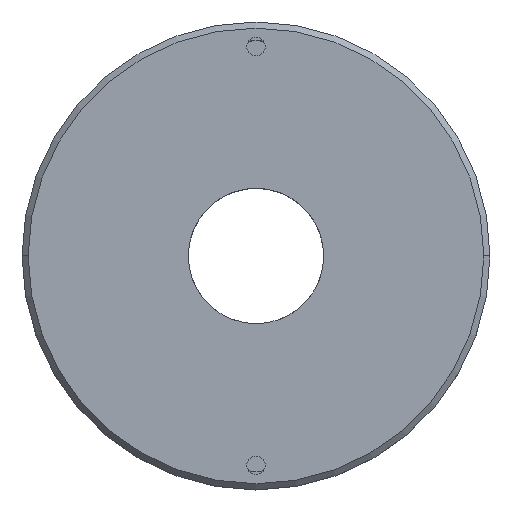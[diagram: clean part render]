
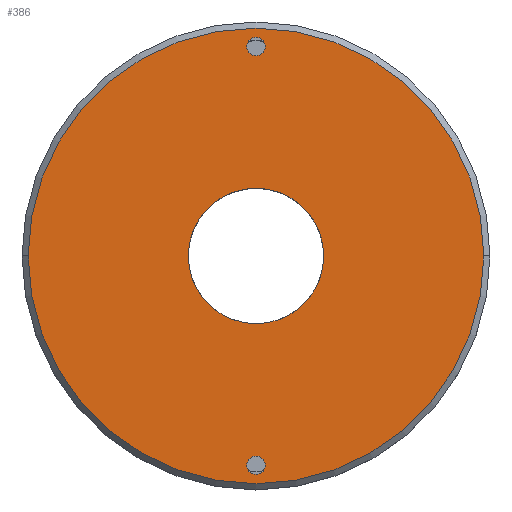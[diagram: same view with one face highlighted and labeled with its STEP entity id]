
A CAD part, top view. The second image highlights one B-rep face of the part: STEP entity #386.
In plain terms, the highlighted planar face has unit normal (0, 0, 1).
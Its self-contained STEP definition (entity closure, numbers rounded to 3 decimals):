
#2 = CARTESIAN_POINT ( 'NONE',  ( 1.676, 0.437, 12. ) ) ;
#4 = DIRECTION ( 'NONE',  ( -1., 0., 0. ) ) ;
#7 = DIRECTION ( 'NONE',  ( 0., 0., 1. ) ) ;
#58 = CARTESIAN_POINT ( 'NONE',  ( 2.426, 17.437, 12. ) ) ;
#59 = CIRCLE ( 'NONE', #262, 5.5 ) ;
#85 = AXIS2_PLACEMENT_3D ( 'NONE', #528, #1031, #4 ) ;
#94 = PLANE ( 'NONE',  #438 ) ;
#98 = CIRCLE ( 'NONE', #1089, 0.75 ) ;
#110 = DIRECTION ( 'NONE',  ( 1., 0., 0. ) ) ;
#134 = CARTESIAN_POINT ( 'NONE',  ( 20.176, 0.437, 12. ) ) ;
#168 = CARTESIAN_POINT ( 'NONE',  ( 1.676, 17.437, 12. ) ) ;
#174 = FACE_BOUND ( 'NONE', #190, .T. ) ;
#175 = CARTESIAN_POINT ( 'NONE',  ( 1.676, 0.437, 12. ) ) ;
#190 = EDGE_LOOP ( 'NONE', ( #924, #1238 ) ) ;
#197 = DIRECTION ( 'NONE',  ( 1., 0., 0. ) ) ;
#218 = VERTEX_POINT ( 'NONE', #1134 ) ;
#221 = VERTEX_POINT ( 'NONE', #222 ) ;
#222 = CARTESIAN_POINT ( 'NONE',  ( 7.176, 0.437, 12. ) ) ;
#225 = EDGE_CURVE ( 'NONE', #221, #300, #1013, .T. ) ;
#251 = DIRECTION ( 'NONE',  ( 0., 0., 1. ) ) ;
#262 = AXIS2_PLACEMENT_3D ( 'NONE', #175, #902, #283 ) ;
#266 = ORIENTED_EDGE ( 'NONE', *, *, #360, .F. ) ;
#274 = EDGE_CURVE ( 'NONE', #772, #218, #667, .T. ) ;
#275 = CARTESIAN_POINT ( 'NONE',  ( -16.824, 0.437, 12. ) ) ;
#278 = DIRECTION ( 'NONE',  ( 1., 0., 0. ) ) ;
#283 = DIRECTION ( 'NONE',  ( 1., 0., 0. ) ) ;
#300 = VERTEX_POINT ( 'NONE', #937 ) ;
#326 = CIRCLE ( 'NONE', #925, 18.5 ) ;
#339 = CARTESIAN_POINT ( 'NONE',  ( 1.676, 0.437, 12. ) ) ;
#340 = ORIENTED_EDGE ( 'NONE', *, *, #274, .F. ) ;
#360 = EDGE_CURVE ( 'NONE', #218, #772, #1281, .T. ) ;
#371 = ORIENTED_EDGE ( 'NONE', *, *, #996, .F. ) ;
#386 = ADVANCED_FACE ( 'NONE', ( #458, #1254, #991, #174 ), #94, .T. ) ;
#398 = EDGE_LOOP ( 'NONE', ( #340, #266 ) ) ;
#413 = DIRECTION ( 'NONE',  ( 0., 0., 1. ) ) ;
#438 = AXIS2_PLACEMENT_3D ( 'NONE', #513, #413, #197 ) ;
#458 = FACE_OUTER_BOUND ( 'NONE', #808, .T. ) ;
#466 = ORIENTED_EDGE ( 'NONE', *, *, #936, .F. ) ;
#513 = CARTESIAN_POINT ( 'NONE',  ( 1.676, 0.437, 12. ) ) ;
#521 = EDGE_CURVE ( 'NONE', #985, #619, #326, .T. ) ;
#528 = CARTESIAN_POINT ( 'NONE',  ( 1.676, -16.563, 12. ) ) ;
#619 = VERTEX_POINT ( 'NONE', #134 ) ;
#634 = CARTESIAN_POINT ( 'NONE',  ( 1.676, 17.437, 12. ) ) ;
#660 = ORIENTED_EDGE ( 'NONE', *, *, #1112, .T. ) ;
#666 = AXIS2_PLACEMENT_3D ( 'NONE', #2, #728, #110 ) ;
#667 = CIRCLE ( 'NONE', #1143, 0.75 ) ;
#685 = CARTESIAN_POINT ( 'NONE',  ( 0.926, 17.437, 12. ) ) ;
#728 = DIRECTION ( 'NONE',  ( 0., 0., 1. ) ) ;
#734 = DIRECTION ( 'NONE',  ( 1., 0., 0. ) ) ;
#752 = CARTESIAN_POINT ( 'NONE',  ( 1.676, -16.563, 12. ) ) ;
#772 = VERTEX_POINT ( 'NONE', #913 ) ;
#808 = EDGE_LOOP ( 'NONE', ( #930, #660 ) ) ;
#818 = DIRECTION ( 'NONE',  ( 0., 0., 1. ) ) ;
#825 = AXIS2_PLACEMENT_3D ( 'NONE', #634, #7, #734 ) ;
#849 = DIRECTION ( 'NONE',  ( 0., 0., 1. ) ) ;
#856 = DIRECTION ( 'NONE',  ( -1., 0., 0. ) ) ;
#862 = EDGE_LOOP ( 'NONE', ( #371, #466 ) ) ;
#894 = DIRECTION ( 'NONE',  ( 0., 0., 1. ) ) ;
#902 = DIRECTION ( 'NONE',  ( 0., 0., 1. ) ) ;
#913 = CARTESIAN_POINT ( 'NONE',  ( 2.426, -16.563, 12. ) ) ;
#919 = CARTESIAN_POINT ( 'NONE',  ( 1.676, 0.437, 12. ) ) ;
#924 = ORIENTED_EDGE ( 'NONE', *, *, #225, .F. ) ;
#925 = AXIS2_PLACEMENT_3D ( 'NONE', #919, #818, #927 ) ;
#927 = DIRECTION ( 'NONE',  ( 1., 0., 0. ) ) ;
#930 = ORIENTED_EDGE ( 'NONE', *, *, #521, .T. ) ;
#936 = EDGE_CURVE ( 'NONE', #1072, #1011, #1211, .T. ) ;
#937 = CARTESIAN_POINT ( 'NONE',  ( -3.824, 0.437, 12. ) ) ;
#985 = VERTEX_POINT ( 'NONE', #275 ) ;
#991 = FACE_BOUND ( 'NONE', #862, .T. ) ;
#996 = EDGE_CURVE ( 'NONE', #1011, #1072, #98, .T. ) ;
#998 = CIRCLE ( 'NONE', #666, 18.5 ) ;
#1011 = VERTEX_POINT ( 'NONE', #58 ) ;
#1013 = CIRCLE ( 'NONE', #1314, 5.5 ) ;
#1022 = EDGE_CURVE ( 'NONE', #300, #221, #59, .T. ) ;
#1031 = DIRECTION ( 'NONE',  ( 0., 0., 1. ) ) ;
#1043 = DIRECTION ( 'NONE',  ( 1., 0., 0. ) ) ;
#1072 = VERTEX_POINT ( 'NONE', #685 ) ;
#1089 = AXIS2_PLACEMENT_3D ( 'NONE', #168, #894, #278 ) ;
#1112 = EDGE_CURVE ( 'NONE', #619, #985, #998, .T. ) ;
#1134 = CARTESIAN_POINT ( 'NONE',  ( 0.926, -16.563, 12. ) ) ;
#1143 = AXIS2_PLACEMENT_3D ( 'NONE', #752, #251, #856 ) ;
#1211 = CIRCLE ( 'NONE', #825, 0.75 ) ;
#1238 = ORIENTED_EDGE ( 'NONE', *, *, #1022, .F. ) ;
#1254 = FACE_BOUND ( 'NONE', #398, .T. ) ;
#1281 = CIRCLE ( 'NONE', #85, 0.75 ) ;
#1314 = AXIS2_PLACEMENT_3D ( 'NONE', #339, #849, #1043 ) ;
